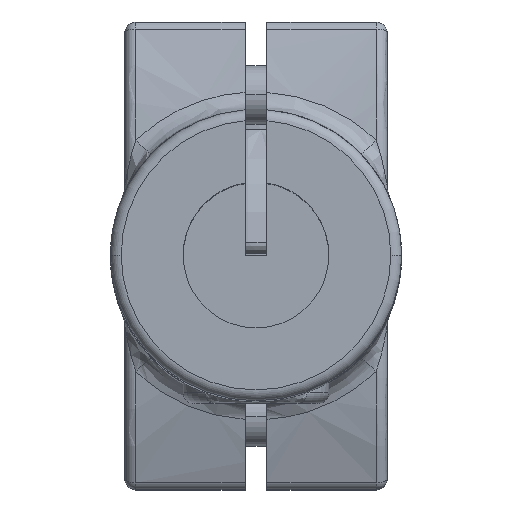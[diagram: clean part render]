
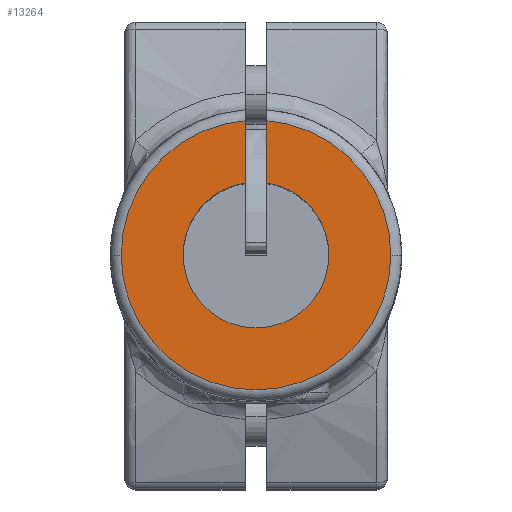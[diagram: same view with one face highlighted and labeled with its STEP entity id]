
A CAD part, top view. The second image highlights one B-rep face of the part: STEP entity #13264.
In plain terms, the highlighted planar face has unit normal (0, 0, 1) as drawn and (0, 0, -1) by its records, which use the part's own axes.
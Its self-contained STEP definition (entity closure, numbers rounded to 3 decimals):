
#363 = ORIENTED_EDGE ( 'NONE', *, *, #3917, .T. ) ;
#558 = CIRCLE ( 'NONE', #13662, 18.5 ) ;
#653 = VERTEX_POINT ( 'NONE', #2522 ) ;
#869 = ORIENTED_EDGE ( 'NONE', *, *, #15292, .T. ) ;
#941 = DIRECTION ( 'NONE',  ( 0., -1., 0. ) ) ;
#974 = CARTESIAN_POINT ( 'NONE',  ( 0., 0., 0. ) ) ;
#1163 = CARTESIAN_POINT ( 'NONE',  ( -1.5, 0., 0. ) ) ;
#1355 = EDGE_CURVE ( 'NONE', #6830, #13998, #10702, .T. ) ;
#1665 = DIRECTION ( 'NONE',  ( 0., 0., -1. ) ) ;
#1919 = CARTESIAN_POINT ( 'NONE',  ( -10., 0., 0. ) ) ;
#2065 = EDGE_CURVE ( 'NONE', #5554, #13998, #12409, .T. ) ;
#2125 = ORIENTED_EDGE ( 'NONE', *, *, #1355, .T. ) ;
#2279 = ORIENTED_EDGE ( 'NONE', *, *, #2065, .F. ) ;
#2399 = VECTOR ( 'NONE', #941, 1000. ) ;
#2518 = ORIENTED_EDGE ( 'NONE', *, *, #8100, .T. ) ;
#2522 = CARTESIAN_POINT ( 'NONE',  ( -1.5, 9.887, 0. ) ) ;
#2742 = DIRECTION ( 'NONE',  ( -1., 0., 0. ) ) ;
#2797 = EDGE_CURVE ( 'NONE', #10708, #6830, #10054, .T. ) ;
#2807 = DIRECTION ( 'NONE',  ( 0., 0., 1. ) ) ;
#2923 = CARTESIAN_POINT ( 'NONE',  ( 0., 0., 0. ) ) ;
#2940 = AXIS2_PLACEMENT_3D ( 'NONE', #5506, #14440, #2742 ) ;
#2982 = CARTESIAN_POINT ( 'NONE',  ( 0., 0., 0. ) ) ;
#3700 = CARTESIAN_POINT ( 'NONE',  ( -1.5, 18.439, 0. ) ) ;
#3760 = DIRECTION ( 'NONE',  ( 1., 0., 0. ) ) ;
#3917 = EDGE_CURVE ( 'NONE', #11204, #5148, #11147, .T. ) ;
#4225 = AXIS2_PLACEMENT_3D ( 'NONE', #974, #6352, #3760 ) ;
#4855 = EDGE_LOOP ( 'NONE', ( #2279, #869, #2518, #363, #5660, #8406, #14785, #2125 ) ) ;
#5148 = VERTEX_POINT ( 'NONE', #3700 ) ;
#5423 = DIRECTION ( 'NONE',  ( -1., 0., 0. ) ) ;
#5506 = CARTESIAN_POINT ( 'NONE',  ( 0., 0., 0. ) ) ;
#5554 = VERTEX_POINT ( 'NONE', #9598 ) ;
#5660 = ORIENTED_EDGE ( 'NONE', *, *, #15896, .F. ) ;
#5881 = CIRCLE ( 'NONE', #7741, 18.5 ) ;
#6264 = PLANE ( 'NONE',  #4225 ) ;
#6349 = DIRECTION ( 'NONE',  ( 0., 0., -1. ) ) ;
#6352 = DIRECTION ( 'NONE',  ( 0., 0., 1. ) ) ;
#6750 = DIRECTION ( 'NONE',  ( 0., 0., -1. ) ) ;
#6830 = VERTEX_POINT ( 'NONE', #11690 ) ;
#7076 = CARTESIAN_POINT ( 'NONE',  ( 18.5, 0., 0. ) ) ;
#7183 = DIRECTION ( 'NONE',  ( -1., 0., 0. ) ) ;
#7288 = VERTEX_POINT ( 'NONE', #7076 ) ;
#7741 = AXIS2_PLACEMENT_3D ( 'NONE', #13960, #6349, #11442 ) ;
#7791 = VECTOR ( 'NONE', #11546, 1000. ) ;
#7925 = EDGE_CURVE ( 'NONE', #653, #10708, #14675, .T. ) ;
#8088 = DIRECTION ( 'NONE',  ( 1., 0., 0. ) ) ;
#8100 = EDGE_CURVE ( 'NONE', #7288, #11204, #5881, .T. ) ;
#8406 = ORIENTED_EDGE ( 'NONE', *, *, #7925, .T. ) ;
#9598 = CARTESIAN_POINT ( 'NONE',  ( 1.5, 18.439, 0. ) ) ;
#10054 = CIRCLE ( 'NONE', #10325, 10. ) ;
#10264 = CARTESIAN_POINT ( 'NONE',  ( 1.5, 0., 0. ) ) ;
#10325 = AXIS2_PLACEMENT_3D ( 'NONE', #14262, #2807, #5423 ) ;
#10702 = CIRCLE ( 'NONE', #2940, 10. ) ;
#10708 = VERTEX_POINT ( 'NONE', #1919 ) ;
#10890 = CARTESIAN_POINT ( 'NONE',  ( 1.5, 9.887, 0. ) ) ;
#10951 = DIRECTION ( 'NONE',  ( 0., 0., 1. ) ) ;
#11147 = CIRCLE ( 'NONE', #13814, 18.5 ) ;
#11204 = VERTEX_POINT ( 'NONE', #16518 ) ;
#11442 = DIRECTION ( 'NONE',  ( 1., 0., 0. ) ) ;
#11546 = DIRECTION ( 'NONE',  ( 0., 1., 0. ) ) ;
#11690 = CARTESIAN_POINT ( 'NONE',  ( 10., 0., 0. ) ) ;
#12409 = LINE ( 'NONE', #10264, #2399 ) ;
#13084 = AXIS2_PLACEMENT_3D ( 'NONE', #15955, #10951, #7183 ) ;
#13264 = ADVANCED_FACE ( 'NONE', ( #15307 ), #6264, .F. ) ;
#13662 = AXIS2_PLACEMENT_3D ( 'NONE', #2923, #1665, #15638 ) ;
#13814 = AXIS2_PLACEMENT_3D ( 'NONE', #2982, #6750, #8088 ) ;
#13960 = CARTESIAN_POINT ( 'NONE',  ( 0., 0., 0. ) ) ;
#13998 = VERTEX_POINT ( 'NONE', #10890 ) ;
#14262 = CARTESIAN_POINT ( 'NONE',  ( 0., 0., 0. ) ) ;
#14440 = DIRECTION ( 'NONE',  ( 0., 0., 1. ) ) ;
#14675 = CIRCLE ( 'NONE', #13084, 10. ) ;
#14785 = ORIENTED_EDGE ( 'NONE', *, *, #2797, .T. ) ;
#15292 = EDGE_CURVE ( 'NONE', #5554, #7288, #558, .T. ) ;
#15307 = FACE_OUTER_BOUND ( 'NONE', #4855, .T. ) ;
#15638 = DIRECTION ( 'NONE',  ( 1., 0., 0. ) ) ;
#15896 = EDGE_CURVE ( 'NONE', #653, #5148, #16480, .T. ) ;
#15955 = CARTESIAN_POINT ( 'NONE',  ( 0., 0., 0. ) ) ;
#16480 = LINE ( 'NONE', #1163, #7791 ) ;
#16518 = CARTESIAN_POINT ( 'NONE',  ( -18.5, 0., 0. ) ) ;
